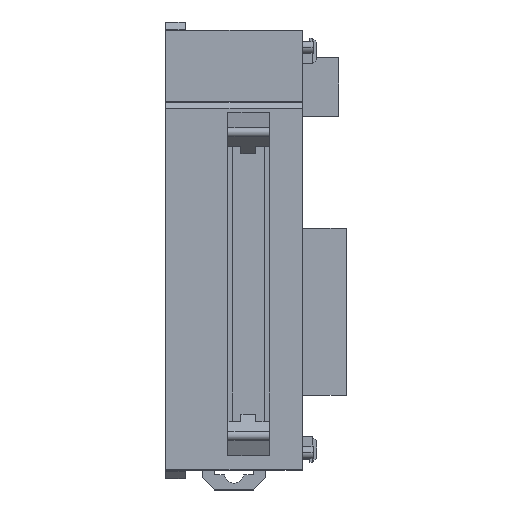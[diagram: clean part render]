
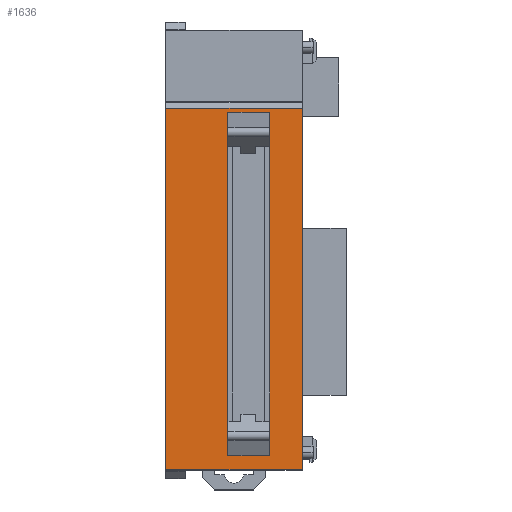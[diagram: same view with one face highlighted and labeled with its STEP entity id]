
A CAD part, top view. The second image highlights one B-rep face of the part: STEP entity #1636.
In plain terms, the highlighted planar face has unit normal (0, 0, 1).
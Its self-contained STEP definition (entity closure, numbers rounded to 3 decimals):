
#1597 = ORIENTED_EDGE ( 'NONE', *, *, #1621, .T. ) ;
#1619 = VERTEX_POINT ( 'NONE', #9155 ) ;
#1620 = EDGE_CURVE ( 'NONE', #1641, #1655, #9073, .T. ) ;
#1621 = EDGE_CURVE ( 'NONE', #1619, #1662, #9063, .T. ) ;
#1622 = VERTEX_POINT ( 'NONE', #9071 ) ;
#1625 = EDGE_CURVE ( 'NONE', #1662, #1631, #9055, .T. ) ;
#1627 = ORIENTED_EDGE ( 'NONE', *, *, #1625, .T. ) ;
#1631 = VERTEX_POINT ( 'NONE', #9054 ) ;
#1632 = EDGE_CURVE ( 'NONE', #1622, #1631, #9047, .T. ) ;
#1635 = EDGE_LOOP ( 'NONE', ( #1597, #1627, #1811, #1953 ) ) ;
#1636 = ADVANCED_FACE ( 'NONE', ( #9044, #9041 ), #9048, .T. ) ;
#1637 = EDGE_CURVE ( 'NONE', #1966, #1641, #9037, .T. ) ;
#1638 = ORIENTED_EDGE ( 'NONE', *, *, #1640, .T. ) ;
#1639 = EDGE_CURVE ( 'NONE', #1968, #1966, #9038, .T. ) ;
#1640 = EDGE_CURVE ( 'NONE', #1655, #1968, #9027, .T. ) ;
#1641 = VERTEX_POINT ( 'NONE', #9026 ) ;
#1643 = ORIENTED_EDGE ( 'NONE', *, *, #1637, .T. ) ;
#1644 = ORIENTED_EDGE ( 'NONE', *, *, #1639, .T. ) ;
#1648 = ORIENTED_EDGE ( 'NONE', *, *, #1620, .T. ) ;
#1653 = EDGE_LOOP ( 'NONE', ( #1638, #1644, #1643, #1648 ) ) ;
#1655 = VERTEX_POINT ( 'NONE', #9022 ) ;
#1662 = VERTEX_POINT ( 'NONE', #9100 ) ;
#1811 = ORIENTED_EDGE ( 'NONE', *, *, #1632, .F. ) ;
#1813 = EDGE_CURVE ( 'NONE', #1619, #1622, #9381, .T. ) ;
#1953 = ORIENTED_EDGE ( 'NONE', *, *, #1813, .F. ) ;
#1966 = VERTEX_POINT ( 'NONE', #9501 ) ;
#1968 = VERTEX_POINT ( 'NONE', #9505 ) ;
#9022 = CARTESIAN_POINT ( 'NONE',  ( 14., -45., 80. ) ) ;
#9023 = DIRECTION ( 'NONE',  ( 0., 1., 0. ) ) ;
#9024 = VECTOR ( 'NONE', #9023, 1000. ) ;
#9025 = CARTESIAN_POINT ( 'NONE',  ( 14., -45., 80. ) ) ;
#9026 = CARTESIAN_POINT ( 'NONE',  ( -14., -45., 80. ) ) ;
#9027 = LINE ( 'NONE', #9025, #9024 ) ;
#9028 = DIRECTION ( 'NONE',  ( -1., 0., 0. ) ) ;
#9029 = VECTOR ( 'NONE', #9028, 1000. ) ;
#9030 = CARTESIAN_POINT ( 'NONE',  ( -14., 29., 80. ) ) ;
#9031 = DIRECTION ( 'NONE',  ( 0., -1., 0. ) ) ;
#9032 = VECTOR ( 'NONE', #9031, 1000. ) ;
#9034 = DIRECTION ( 'NONE',  ( 1., 0., 0. ) ) ;
#9036 = CARTESIAN_POINT ( 'NONE',  ( -14., -45., 80. ) ) ;
#9037 = LINE ( 'NONE', #9036, #9032 ) ;
#9038 = LINE ( 'NONE', #9030, #9029 ) ;
#9039 = VECTOR ( 'NONE', #9042, 1000. ) ;
#9040 = AXIS2_PLACEMENT_3D ( 'NONE', #9049, #9050, #9034 ) ;
#9041 = FACE_BOUND ( 'NONE', #1635, .T. ) ;
#9042 = DIRECTION ( 'NONE',  ( 0., -1., 0. ) ) ;
#9043 = CARTESIAN_POINT ( 'NONE',  ( -1.3, 45., 80. ) ) ;
#9044 = FACE_OUTER_BOUND ( 'NONE', #1653, .T. ) ;
#9047 = LINE ( 'NONE', #9043, #9039 ) ;
#9048 = PLANE ( 'NONE',  #9040 ) ;
#9049 = CARTESIAN_POINT ( 'NONE',  ( -14., 45., 80. ) ) ;
#9050 = DIRECTION ( 'NONE',  ( 0., 0., 1. ) ) ;
#9051 = DIRECTION ( 'NONE',  ( -1., 0., 0. ) ) ;
#9052 = VECTOR ( 'NONE', #9051, 1000. ) ;
#9053 = CARTESIAN_POINT ( 'NONE',  ( -14., -42.15, 80. ) ) ;
#9054 = CARTESIAN_POINT ( 'NONE',  ( -1.3, -42.15, 80. ) ) ;
#9055 = LINE ( 'NONE', #9053, #9052 ) ;
#9060 = DIRECTION ( 'NONE',  ( 0., -1., 0. ) ) ;
#9061 = VECTOR ( 'NONE', #9060, 1000. ) ;
#9062 = CARTESIAN_POINT ( 'NONE',  ( 7.3, 45., 80. ) ) ;
#9063 = LINE ( 'NONE', #9062, #9061 ) ;
#9066 = DIRECTION ( 'NONE',  ( 1., 0., 0. ) ) ;
#9067 = VECTOR ( 'NONE', #9066, 1000. ) ;
#9071 = CARTESIAN_POINT ( 'NONE',  ( -1.3, 28.15, 80. ) ) ;
#9072 = CARTESIAN_POINT ( 'NONE',  ( 14., -45., 80. ) ) ;
#9073 = LINE ( 'NONE', #9072, #9067 ) ;
#9100 = CARTESIAN_POINT ( 'NONE',  ( 7.3, -42.15, 80. ) ) ;
#9155 = CARTESIAN_POINT ( 'NONE',  ( 7.3, 28.15, 80. ) ) ;
#9378 = DIRECTION ( 'NONE',  ( -1., 0., 0. ) ) ;
#9379 = VECTOR ( 'NONE', #9378, 1000. ) ;
#9380 = CARTESIAN_POINT ( 'NONE',  ( -14., 28.15, 80. ) ) ;
#9381 = LINE ( 'NONE', #9380, #9379 ) ;
#9501 = CARTESIAN_POINT ( 'NONE',  ( -14., 29., 80. ) ) ;
#9505 = CARTESIAN_POINT ( 'NONE',  ( 14., 29., 80. ) ) ;
